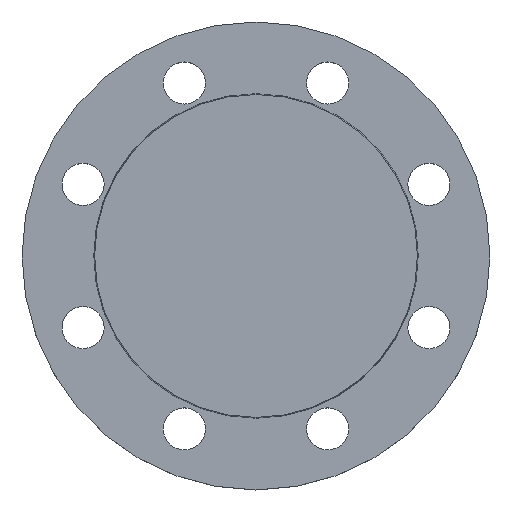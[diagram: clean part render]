
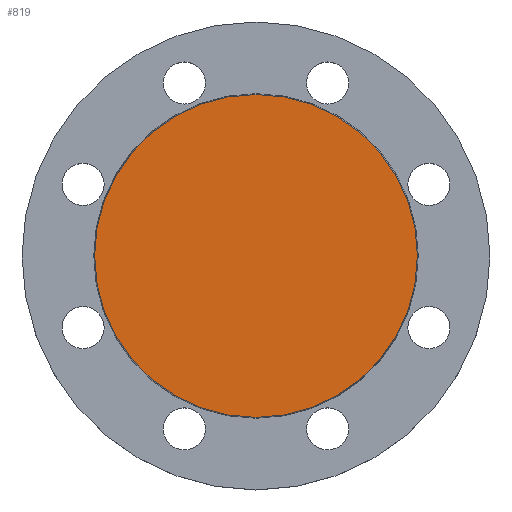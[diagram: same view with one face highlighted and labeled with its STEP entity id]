
A CAD part, top view. The second image highlights one B-rep face of the part: STEP entity #819.
In plain terms, the highlighted planar face has unit normal (0, 0, 1).
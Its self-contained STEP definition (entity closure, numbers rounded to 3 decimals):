
#48 = EDGE_CURVE ( 'NONE', #982, #1006, #193, .T. ) ;
#84 = AXIS2_PLACEMENT_3D ( 'NONE', #240, #239, #238 ) ;
#114 = CARTESIAN_POINT ( 'NONE',  ( -69., 0., 0. ) ) ;
#134 = EDGE_CURVE ( 'NONE', #1006, #982, #820, .T. ) ;
#146 = CARTESIAN_POINT ( 'NONE',  ( 69., 0., 0. ) ) ;
#193 = CIRCLE ( 'NONE', #195, 69. ) ;
#195 = AXIS2_PLACEMENT_3D ( 'NONE', #716, #719, #720 ) ;
#238 = DIRECTION ( 'NONE',  ( 1., 0., 0. ) ) ;
#239 = DIRECTION ( 'NONE',  ( 0., 0., 1. ) ) ;
#240 = CARTESIAN_POINT ( 'NONE',  ( 0., 0., 0. ) ) ;
#242 = PLANE ( 'NONE',  #84 ) ;
#243 = FACE_OUTER_BOUND ( 'NONE', #828, .T. ) ;
#716 = CARTESIAN_POINT ( 'NONE',  ( 0., 0., 0. ) ) ;
#719 = DIRECTION ( 'NONE',  ( 0., 0., -1. ) ) ;
#720 = DIRECTION ( 'NONE',  ( -1., 0., 0. ) ) ;
#790 = CARTESIAN_POINT ( 'NONE',  ( 0., 0., 0. ) ) ;
#796 = DIRECTION ( 'NONE',  ( -1., 0., 0. ) ) ;
#819 = ADVANCED_FACE ( 'NONE', ( #243 ), #242, .T. ) ;
#820 = CIRCLE ( 'NONE', #849, 69. ) ;
#828 = EDGE_LOOP ( 'NONE', ( #1026, #1027 ) ) ;
#849 = AXIS2_PLACEMENT_3D ( 'NONE', #790, #867, #796 ) ;
#867 = DIRECTION ( 'NONE',  ( 0., 0., -1. ) ) ;
#982 = VERTEX_POINT ( 'NONE', #146 ) ;
#1006 = VERTEX_POINT ( 'NONE', #114 ) ;
#1026 = ORIENTED_EDGE ( 'NONE', *, *, #134, .F. ) ;
#1027 = ORIENTED_EDGE ( 'NONE', *, *, #48, .F. ) ;
